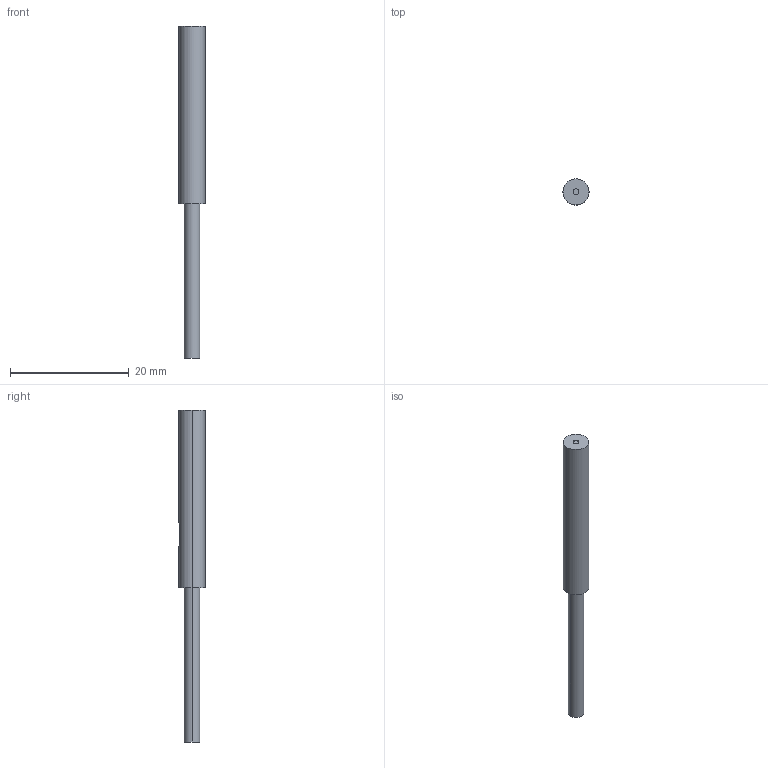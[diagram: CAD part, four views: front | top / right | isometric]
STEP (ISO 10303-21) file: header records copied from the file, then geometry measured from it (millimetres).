
FILE_DESCRIPTION (( 'STEP AP203' ), '1' );
FILE_NAME ('GX-4S.STEP', '2005-09-07T01:17:46', ( '' ), ( '' ), 'SwSTEP 2.0', 'SolidWorks 2004073', '' );
FILE_SCHEMA (( 'CONFIG_CONTROL_DESIGN' ));
Length unit declared in the file: millimetre
Products named in the file (1): GX-4S
Bounding box: 4.4 x 4.4 x 56 mm (x, y, z)
Volume: 592.4 mm3; surface area: 660.1 mm2
Topology: 1 solids, 1 shells, 15 faces, 30 edges, 20 vertices
Faces by surface type: cylinder 8, plane 7
Entity records: 505 total; most frequent: CARTESIAN_POINT 100, DIRECTION 74, ORIENTED_EDGE 60, AXIS2_PLACEMENT_3D 30, EDGE_CURVE 30, VERTEX_POINT 20, EDGE_LOOP 18, ADVANCED_FACE 15
